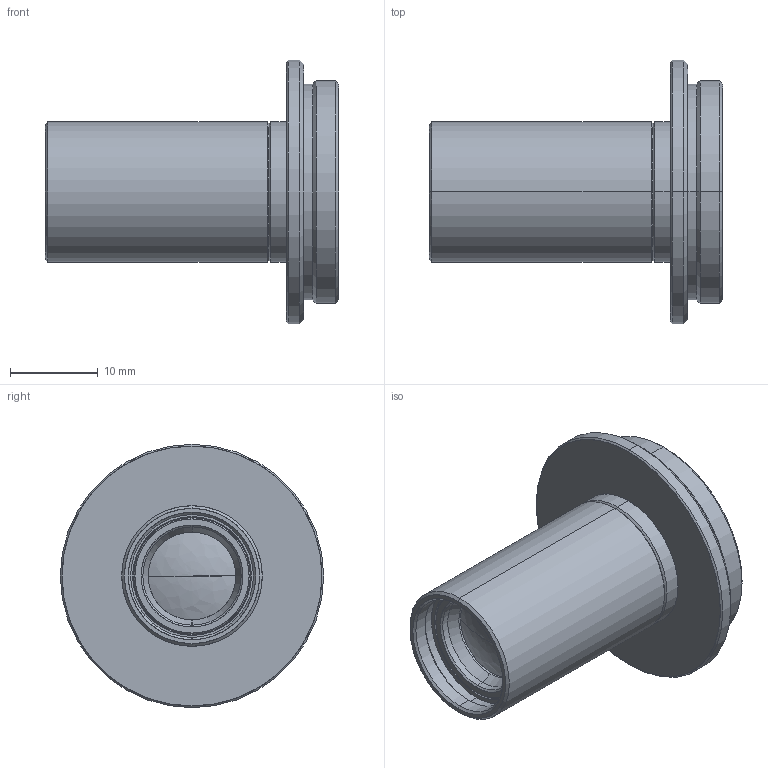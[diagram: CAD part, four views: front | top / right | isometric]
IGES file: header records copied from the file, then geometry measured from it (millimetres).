
Start section: SolidWorks IGES file using analytic representation for surfaces
Global section: file name: \\192.168.1.203\development\01 マクロレンズ\02 VS-MC series\03 ノンテレマクロ\030 VS-MC03-100\3D\VS-MC03-100.IGS; native system: SolidWorks 2012; preprocessor: SolidWorks 2012; author: Tsuji_vst; date: 130913.091357; units: millimetre
Bounding box: 33.48 x 30 x 30 mm (x, y, z)
Surface area: 4151 mm2 (no closed solid volume)
Topology: 0 solids, 0 shells, 73 faces, 904 edges, 902 vertices
Faces by surface type: revolution 64, bspline 9
